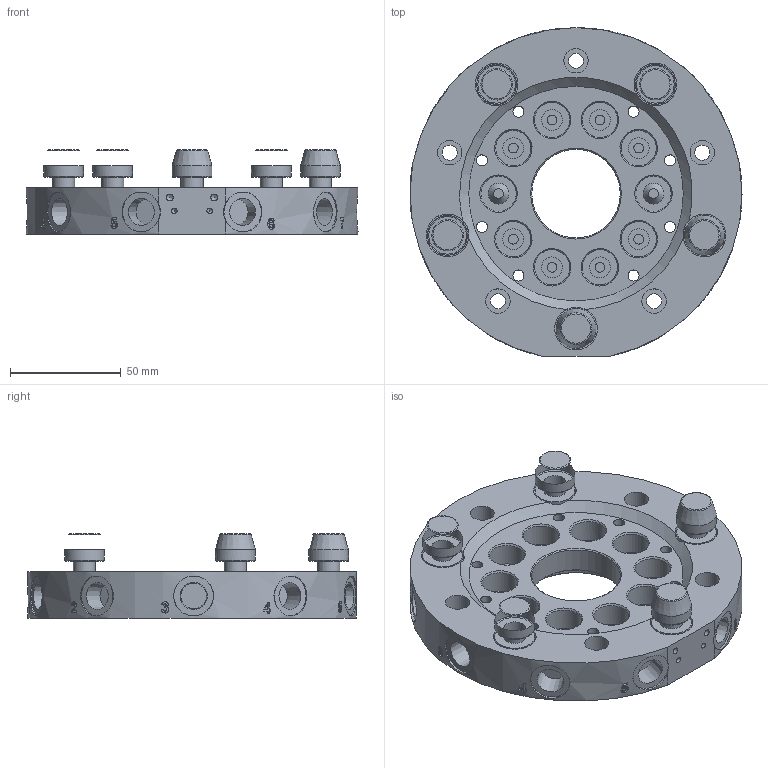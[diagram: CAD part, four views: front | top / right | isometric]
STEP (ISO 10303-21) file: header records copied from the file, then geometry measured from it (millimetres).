
FILE_DESCRIPTION(/* description */ ('SR150-B-2'),/* implementation_level */ '2;1');
FILE_NAME(/* name */ 'IMC-FIPA-SR150-B-3.step',/* time_stamp */ '2025-11-18T13:04:42+01:00',/* author */ (''),/* organization */ (''),/* preprocessor_version */ 'ST-DEVELOPER v20.1',/* originating_system */ 'Autodesk Translation Framework v14.21.0.0',/* authorisation */ '');
FILE_SCHEMA (('AUTOMOTIVE_DESIGN { 1 0 10303 214 3 1 1 }'));
Length unit declared in the file: millimetre
Products named in the file (1): 0802496
Bounding box: 150 x 148.5 x 38 mm (x, y, z)
Volume: 284305.3 mm3; surface area: 67252.8 mm2
Topology: 1 solids, 1 shells, 406 faces, 924 edges, 612 vertices
Faces by surface type: plane 171, bspline 92, cylinder 84, cone 44, torus 15
Full cylindrical faces by diameter (mm): 2.5 x2, 3 x2, 5 x8, 6 x1, 6.8 x5, 10 x10, 10.9 x5, 11 x5, 16 x10, 18 x20, 19.3 x5, 40 x1, 50 x1
Entity records: 16571 total; most frequent: CARTESIAN_POINT 7697, ORIENTED_EDGE 1838, DIRECTION 1641, EDGE_CURVE 919, AXIS2_PLACEMENT_3D 614, VERTEX_POINT 612, EDGE_LOOP 531, LINE 413
